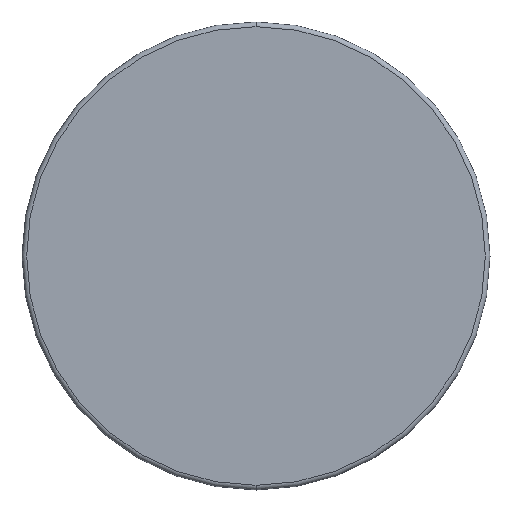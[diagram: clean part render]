
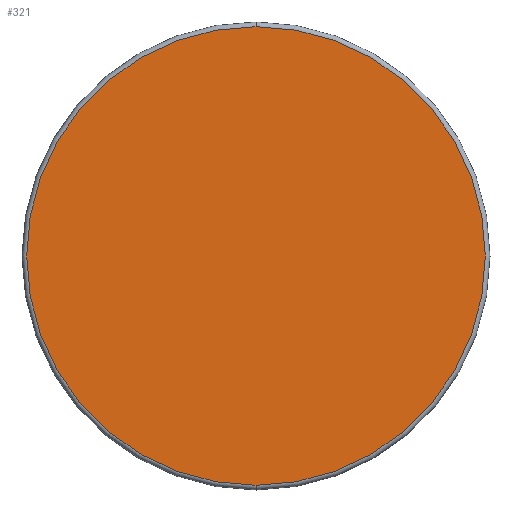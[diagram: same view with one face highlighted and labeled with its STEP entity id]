
A CAD part, front view. The second image highlights one B-rep face of the part: STEP entity #321.
In plain terms, the highlighted planar face has unit normal (0, -1, 0).
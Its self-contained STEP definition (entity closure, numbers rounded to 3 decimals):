
#34 = ORIENTED_EDGE ( 'NONE', *, *, #979, .T. ) ;
#47 = CARTESIAN_POINT ( 'NONE',  ( 0., 0., 49. ) ) ;
#69 = DIRECTION ( 'NONE',  ( 0., 0., -1. ) ) ;
#78 = AXIS2_PLACEMENT_3D ( 'NONE', #788, #1014, #69 ) ;
#120 = DIRECTION ( 'NONE',  ( 0., -1., 0. ) ) ;
#185 = VERTEX_POINT ( 'NONE', #593 ) ;
#226 = EDGE_LOOP ( 'NONE', ( #34, #588 ) ) ;
#295 = CIRCLE ( 'NONE', #78, 49. ) ;
#321 = ADVANCED_FACE ( 'NONE', ( #610 ), #709, .F. ) ;
#352 = EDGE_CURVE ( 'NONE', #573, #185, #796, .T. ) ;
#445 = DIRECTION ( 'NONE',  ( 0., 0., -1. ) ) ;
#479 = DIRECTION ( 'NONE',  ( 0., 1., 0. ) ) ;
#573 = VERTEX_POINT ( 'NONE', #47 ) ;
#588 = ORIENTED_EDGE ( 'NONE', *, *, #352, .T. ) ;
#593 = CARTESIAN_POINT ( 'NONE',  ( 0., 0., -49. ) ) ;
#597 = AXIS2_PLACEMENT_3D ( 'NONE', #866, #479, #807 ) ;
#610 = FACE_OUTER_BOUND ( 'NONE', #226, .T. ) ;
#709 = PLANE ( 'NONE',  #597 ) ;
#788 = CARTESIAN_POINT ( 'NONE',  ( 0., 0., 0. ) ) ;
#796 = CIRCLE ( 'NONE', #857, 49. ) ;
#807 = DIRECTION ( 'NONE',  ( 0., 0., 1. ) ) ;
#834 = CARTESIAN_POINT ( 'NONE',  ( 0., 0., 0. ) ) ;
#857 = AXIS2_PLACEMENT_3D ( 'NONE', #834, #120, #445 ) ;
#866 = CARTESIAN_POINT ( 'NONE',  ( 0., 0., 0. ) ) ;
#979 = EDGE_CURVE ( 'NONE', #185, #573, #295, .T. ) ;
#1014 = DIRECTION ( 'NONE',  ( 0., -1., 0. ) ) ;
